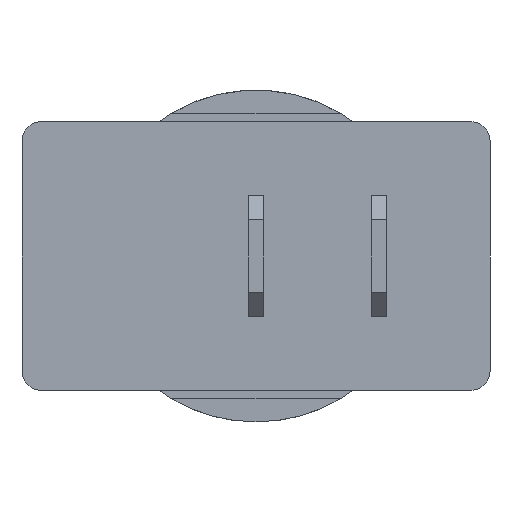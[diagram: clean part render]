
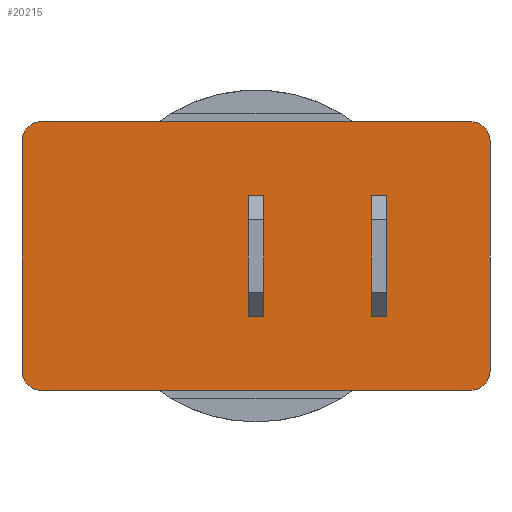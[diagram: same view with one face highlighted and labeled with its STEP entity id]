
A CAD part, front view. The second image highlights one B-rep face of the part: STEP entity #20215.
In plain terms, the highlighted planar face has unit normal (0, -1, 0).
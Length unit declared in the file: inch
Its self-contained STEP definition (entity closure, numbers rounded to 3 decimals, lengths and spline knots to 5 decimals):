
#1929=FACE_BOUND('',#4203,.T.);
#1930=FACE_BOUND('',#4204,.T.);
#2050=PLANE('',#21547);
#2996=FACE_OUTER_BOUND('',#4202,.T.);
#4202=EDGE_LOOP('',(#13570,#13571,#13572,#13573,#13574,#13575,#13576,#13577));
#4203=EDGE_LOOP('',(#13578,#13579,#13580,#13581));
#4204=EDGE_LOOP('',(#13582,#13583,#13584,#13585));
#5475=LINE('',#31513,#6525);
#5480=LINE('',#31523,#6530);
#5490=LINE('',#31542,#6540);
#5491=LINE('',#31544,#6541);
#5494=LINE('',#31556,#6544);
#5499=LINE('',#31566,#6549);
#5509=LINE('',#31585,#6559);
#5510=LINE('',#31587,#6560);
#5527=LINE('',#31653,#6577);
#5528=LINE('',#31655,#6578);
#5529=LINE('',#31658,#6579);
#5530=LINE('',#31660,#6580);
#6525=VECTOR('',#24492,0.3937);
#6530=VECTOR('',#24499,0.3937);
#6540=VECTOR('',#24517,0.3937);
#6541=VECTOR('',#24520,0.3937);
#6544=VECTOR('',#24531,0.3937);
#6549=VECTOR('',#24538,0.3937);
#6559=VECTOR('',#24556,0.3937);
#6560=VECTOR('',#24559,0.3937);
#6577=VECTOR('',#24634,0.3937);
#6578=VECTOR('',#24637,0.3937);
#6579=VECTOR('',#24642,0.3937);
#6580=VECTOR('',#24645,0.3937);
#7580=CIRCLE('',#21519,0.03937);
#7584=CIRCLE('',#21525,0.03937);
#7588=CIRCLE('',#21531,0.03937);
#7592=CIRCLE('',#21538,0.03937);
#7985=VERTEX_POINT('',#31510);
#7986=VERTEX_POINT('',#31512);
#7990=VERTEX_POINT('',#31522);
#7995=VERTEX_POINT('',#31540);
#7999=VERTEX_POINT('',#31553);
#8000=VERTEX_POINT('',#31555);
#8004=VERTEX_POINT('',#31565);
#8009=VERTEX_POINT('',#31583);
#8013=VERTEX_POINT('',#31596);
#8014=VERTEX_POINT('',#31597);
#8018=VERTEX_POINT('',#31609);
#8019=VERTEX_POINT('',#31610);
#8023=VERTEX_POINT('',#31622);
#8024=VERTEX_POINT('',#31623);
#8028=VERTEX_POINT('',#31638);
#8029=VERTEX_POINT('',#31639);
#10163=EDGE_CURVE('',#7986,#7985,#5475,.T.);
#10168=EDGE_CURVE('',#7990,#7986,#5480,.T.);
#10178=EDGE_CURVE('',#7985,#7995,#5490,.T.);
#10179=EDGE_CURVE('',#7995,#7990,#5491,.T.);
#10184=EDGE_CURVE('',#8000,#7999,#5494,.T.);
#10189=EDGE_CURVE('',#8004,#8000,#5499,.T.);
#10199=EDGE_CURVE('',#7999,#8009,#5509,.T.);
#10200=EDGE_CURVE('',#8009,#8004,#5510,.T.);
#10204=EDGE_CURVE('',#8013,#8014,#7580,.T.);
#10210=EDGE_CURVE('',#8018,#8019,#7584,.T.);
#10216=EDGE_CURVE('',#8023,#8024,#7588,.T.);
#10224=EDGE_CURVE('',#8028,#8029,#7592,.T.);
#10233=EDGE_CURVE('',#8024,#8013,#5527,.T.);
#10234=EDGE_CURVE('',#8029,#8023,#5528,.T.);
#10235=EDGE_CURVE('',#8019,#8028,#5529,.T.);
#10236=EDGE_CURVE('',#8014,#8018,#5530,.T.);
#13570=ORIENTED_EDGE('',*,*,#10204,.F.);
#13571=ORIENTED_EDGE('',*,*,#10233,.F.);
#13572=ORIENTED_EDGE('',*,*,#10216,.F.);
#13573=ORIENTED_EDGE('',*,*,#10234,.F.);
#13574=ORIENTED_EDGE('',*,*,#10224,.F.);
#13575=ORIENTED_EDGE('',*,*,#10235,.F.);
#13576=ORIENTED_EDGE('',*,*,#10210,.F.);
#13577=ORIENTED_EDGE('',*,*,#10236,.F.);
#13578=ORIENTED_EDGE('',*,*,#10163,.T.);
#13579=ORIENTED_EDGE('',*,*,#10178,.T.);
#13580=ORIENTED_EDGE('',*,*,#10179,.T.);
#13581=ORIENTED_EDGE('',*,*,#10168,.T.);
#13582=ORIENTED_EDGE('',*,*,#10184,.T.);
#13583=ORIENTED_EDGE('',*,*,#10199,.T.);
#13584=ORIENTED_EDGE('',*,*,#10200,.T.);
#13585=ORIENTED_EDGE('',*,*,#10189,.T.);
#20215=ADVANCED_FACE('',(#2996,#1929,#1930),#2050,.T.);
#21519=AXIS2_PLACEMENT_3D('',#31598,#24570,#24571);
#21525=AXIS2_PLACEMENT_3D('',#31611,#24584,#24585);
#21531=AXIS2_PLACEMENT_3D('',#31624,#24598,#24599);
#21538=AXIS2_PLACEMENT_3D('',#31640,#24616,#24617);
#21547=AXIS2_PLACEMENT_3D('',#31661,#24646,#24647);
#24492=DIRECTION('',(0.,0.,-1.));
#24499=DIRECTION('',(1.,0.,0.));
#24517=DIRECTION('',(-1.,0.,0.));
#24520=DIRECTION('',(0.,0.,1.));
#24531=DIRECTION('',(0.,0.,-1.));
#24538=DIRECTION('',(1.,0.,0.));
#24556=DIRECTION('',(-1.,0.,0.));
#24559=DIRECTION('',(0.,0.,1.));
#24570=DIRECTION('center_axis',(0.,1.,0.));
#24571=DIRECTION('ref_axis',(0.707,0.,0.707));
#24584=DIRECTION('center_axis',(0.,1.,0.));
#24585=DIRECTION('ref_axis',(0.707,0.,-0.707));
#24598=DIRECTION('center_axis',(0.,1.,0.));
#24599=DIRECTION('ref_axis',(-0.707,0.,0.707));
#24616=DIRECTION('center_axis',(0.,1.,0.));
#24617=DIRECTION('ref_axis',(-0.707,0.,-0.707));
#24634=DIRECTION('',(1.,0.,0.));
#24637=DIRECTION('',(0.,0.,1.));
#24642=DIRECTION('',(-1.,0.,0.));
#24645=DIRECTION('',(0.,0.,-1.));
#24646=DIRECTION('center_axis',(0.,-1.,0.));
#24647=DIRECTION('ref_axis',(0.,0.,-1.));
#31510=CARTESIAN_POINT('',(0.74803,0.,-0.39961));
#31512=CARTESIAN_POINT('',(0.74803,0.,-0.15157));
#31513=CARTESIAN_POINT('',(0.74803,0.,-0.27559));
#31522=CARTESIAN_POINT('',(0.71654,0.,-0.15157));
#31523=CARTESIAN_POINT('',(0.6063,0.,-0.15157));
#31540=CARTESIAN_POINT('',(0.71654,0.,-0.39961));
#31542=CARTESIAN_POINT('',(0.6063,0.,-0.39961));
#31544=CARTESIAN_POINT('',(0.71654,0.,-0.27559));
#31553=CARTESIAN_POINT('',(0.49606,0.,-0.39961));
#31555=CARTESIAN_POINT('',(0.49606,0.,-0.15157));
#31556=CARTESIAN_POINT('',(0.49606,0.,-0.27559));
#31565=CARTESIAN_POINT('',(0.46457,0.,-0.15157));
#31566=CARTESIAN_POINT('',(0.48031,0.,-0.15157));
#31583=CARTESIAN_POINT('',(0.46457,0.,-0.39961));
#31585=CARTESIAN_POINT('',(0.48031,0.,-0.39961));
#31587=CARTESIAN_POINT('',(0.46457,0.,-0.27559));
#31596=CARTESIAN_POINT('',(0.92126,0.,0.));
#31597=CARTESIAN_POINT('',(0.96063,0.,-0.03937));
#31598=CARTESIAN_POINT('Origin',(0.92126,0.,-0.03937));
#31609=CARTESIAN_POINT('',(0.96063,0.,-0.51181));
#31610=CARTESIAN_POINT('',(0.92126,0.,-0.55118));
#31611=CARTESIAN_POINT('Origin',(0.92126,0.,-0.51181));
#31622=CARTESIAN_POINT('',(0.,0.,-0.03937));
#31623=CARTESIAN_POINT('',(0.03937,0.,0.));
#31624=CARTESIAN_POINT('Origin',(0.03937,0.,-0.03937));
#31638=CARTESIAN_POINT('',(0.03937,0.,-0.55118));
#31639=CARTESIAN_POINT('',(0.,0.,-0.51181));
#31640=CARTESIAN_POINT('Origin',(0.03937,0.,-0.51181));
#31653=CARTESIAN_POINT('',(0.,0.,0.));
#31655=CARTESIAN_POINT('',(0.,0.,-0.55118));
#31658=CARTESIAN_POINT('',(0.96063,0.,-0.55118));
#31660=CARTESIAN_POINT('',(0.96063,0.,0.));
#31661=CARTESIAN_POINT('Origin',(0.48031,0.,-0.27559));
